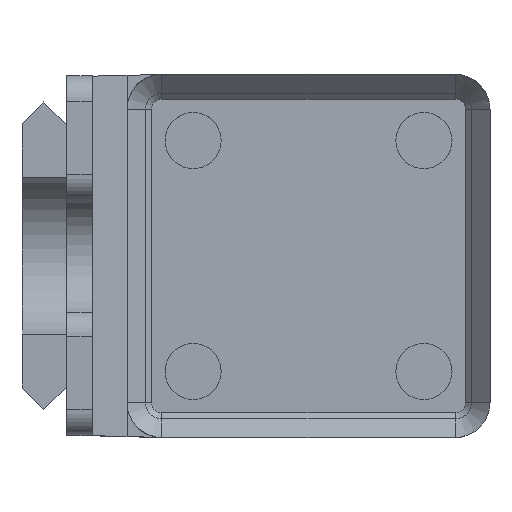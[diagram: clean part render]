
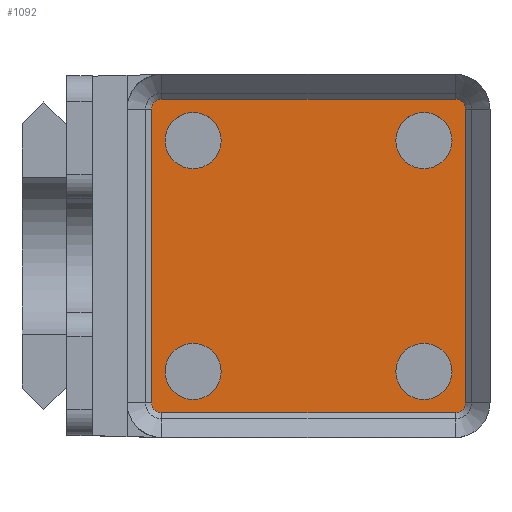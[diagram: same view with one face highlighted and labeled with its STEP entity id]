
A CAD part, top view. The second image highlights one B-rep face of the part: STEP entity #1092.
In plain terms, the highlighted planar face has unit normal (0, 0, 1).
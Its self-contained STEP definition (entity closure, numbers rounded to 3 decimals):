
#23=FACE_BOUND('',#151,.T.);
#24=FACE_BOUND('',#152,.T.);
#25=FACE_BOUND('',#153,.T.);
#26=FACE_BOUND('',#154,.T.);
#32=PLANE('',#1184);
#80=FACE_OUTER_BOUND('',#150,.T.);
#150=EDGE_LOOP('',(#768,#769,#770,#771,#772,#773,#774,#775));
#151=EDGE_LOOP('',(#776));
#152=EDGE_LOOP('',(#777));
#153=EDGE_LOOP('',(#778));
#154=EDGE_LOOP('',(#779));
#221=LINE('',#1657,#338);
#222=LINE('',#1661,#339);
#223=LINE('',#1665,#340);
#224=LINE('',#1668,#341);
#338=VECTOR('',#1322,10.);
#339=VECTOR('',#1325,10.);
#340=VECTOR('',#1328,10.);
#341=VECTOR('',#1331,10.);
#452=CIRCLE('',#1170,3.25);
#454=CIRCLE('',#1174,3.25);
#456=CIRCLE('',#1178,3.25);
#458=CIRCLE('',#1182,3.25);
#459=CIRCLE('',#1185,1.154);
#460=CIRCLE('',#1186,1.154);
#461=CIRCLE('',#1187,1.154);
#462=CIRCLE('',#1188,1.154);
#494=VERTEX_POINT('',#1627);
#496=VERTEX_POINT('',#1634);
#498=VERTEX_POINT('',#1641);
#500=VERTEX_POINT('',#1648);
#501=VERTEX_POINT('',#1653);
#502=VERTEX_POINT('',#1654);
#503=VERTEX_POINT('',#1656);
#504=VERTEX_POINT('',#1658);
#505=VERTEX_POINT('',#1660);
#506=VERTEX_POINT('',#1662);
#507=VERTEX_POINT('',#1664);
#508=VERTEX_POINT('',#1666);
#591=EDGE_CURVE('',#494,#494,#452,.T.);
#594=EDGE_CURVE('',#496,#496,#454,.T.);
#597=EDGE_CURVE('',#498,#498,#456,.T.);
#600=EDGE_CURVE('',#500,#500,#458,.T.);
#601=EDGE_CURVE('',#501,#502,#459,.F.);
#602=EDGE_CURVE('',#502,#503,#221,.F.);
#603=EDGE_CURVE('',#503,#504,#460,.F.);
#604=EDGE_CURVE('',#504,#505,#222,.F.);
#605=EDGE_CURVE('',#505,#506,#461,.F.);
#606=EDGE_CURVE('',#506,#507,#223,.F.);
#607=EDGE_CURVE('',#507,#508,#462,.F.);
#608=EDGE_CURVE('',#508,#501,#224,.F.);
#768=ORIENTED_EDGE('',*,*,#601,.T.);
#769=ORIENTED_EDGE('',*,*,#602,.T.);
#770=ORIENTED_EDGE('',*,*,#603,.T.);
#771=ORIENTED_EDGE('',*,*,#604,.T.);
#772=ORIENTED_EDGE('',*,*,#605,.T.);
#773=ORIENTED_EDGE('',*,*,#606,.T.);
#774=ORIENTED_EDGE('',*,*,#607,.T.);
#775=ORIENTED_EDGE('',*,*,#608,.T.);
#776=ORIENTED_EDGE('',*,*,#591,.T.);
#777=ORIENTED_EDGE('',*,*,#594,.T.);
#778=ORIENTED_EDGE('',*,*,#597,.T.);
#779=ORIENTED_EDGE('',*,*,#600,.T.);
#1092=ADVANCED_FACE('',(#80,#23,#24,#25,#26),#32,.F.);
#1170=AXIS2_PLACEMENT_3D('',#1629,#1287,#1288);
#1174=AXIS2_PLACEMENT_3D('',#1636,#1296,#1297);
#1178=AXIS2_PLACEMENT_3D('',#1643,#1305,#1306);
#1182=AXIS2_PLACEMENT_3D('',#1650,#1314,#1315);
#1184=AXIS2_PLACEMENT_3D('',#1652,#1318,#1319);
#1185=AXIS2_PLACEMENT_3D('',#1655,#1320,#1321);
#1186=AXIS2_PLACEMENT_3D('',#1659,#1323,#1324);
#1187=AXIS2_PLACEMENT_3D('',#1663,#1326,#1327);
#1188=AXIS2_PLACEMENT_3D('',#1667,#1329,#1330);
#1287=DIRECTION('center_axis',(0.,0.,-1.));
#1288=DIRECTION('ref_axis',(-1.,0.,0.));
#1296=DIRECTION('center_axis',(0.,0.,-1.));
#1297=DIRECTION('ref_axis',(-1.,0.,0.));
#1305=DIRECTION('center_axis',(0.,0.,-1.));
#1306=DIRECTION('ref_axis',(-1.,0.,0.));
#1314=DIRECTION('center_axis',(0.,0.,-1.));
#1315=DIRECTION('ref_axis',(-1.,0.,0.));
#1318=DIRECTION('center_axis',(0.,0.,-1.));
#1319=DIRECTION('ref_axis',(1.,0.,0.));
#1320=DIRECTION('center_axis',(0.,0.,
-1.));
#1321=DIRECTION('ref_axis',(0.,-1.,0.));
#1322=DIRECTION('',(-1.,0.,0.));
#1323=DIRECTION('center_axis',(0.,0.,
-1.));
#1324=DIRECTION('ref_axis',(1.,0.,0.));
#1325=DIRECTION('',(0.,-1.,0.));
#1326=DIRECTION('center_axis',(0.,0.,
-1.));
#1327=DIRECTION('ref_axis',(0.,1.,0.));
#1328=DIRECTION('',(1.,0.,0.));
#1329=DIRECTION('center_axis',(0.,0.,
-1.));
#1330=DIRECTION('ref_axis',(-1.,0.,0.));
#1331=DIRECTION('',(0.,1.,0.));
#1627=CARTESIAN_POINT('',(140.754,-13.354,-202.124));
#1629=CARTESIAN_POINT('Origin',(137.504,-13.354,-202.124));
#1634=CARTESIAN_POINT('',(140.754,13.354,-202.124));
#1636=CARTESIAN_POINT('Origin',(137.504,13.354,-202.124));
#1641=CARTESIAN_POINT('',(114.046,13.354,-202.124));
#1643=CARTESIAN_POINT('Origin',(110.796,13.354,-202.124));
#1648=CARTESIAN_POINT('',(114.046,-13.354,-202.124));
#1650=CARTESIAN_POINT('Origin',(110.796,-13.354,-202.124));
#1652=CARTESIAN_POINT('Origin',(120.65,0.,-202.124));
#1653=CARTESIAN_POINT('',(105.996,-17.,-202.124));
#1654=CARTESIAN_POINT('',(107.15,-18.154,-202.124));
#1655=CARTESIAN_POINT('Origin',(107.15,-17.,-202.124));
#1656=CARTESIAN_POINT('',(141.15,-18.154,-202.124));
#1657=CARTESIAN_POINT('',(132.65,-18.154,-202.124));
#1658=CARTESIAN_POINT('',(142.304,-17.,-202.124));
#1659=CARTESIAN_POINT('Origin',(141.15,-17.,-202.124));
#1660=CARTESIAN_POINT('',(142.304,17.,-202.124));
#1661=CARTESIAN_POINT('',(142.304,8.5,-202.124));
#1662=CARTESIAN_POINT('',(141.15,18.154,-202.124));
#1663=CARTESIAN_POINT('Origin',(141.15,17.,-202.124));
#1664=CARTESIAN_POINT('',(107.15,18.154,-202.124));
#1665=CARTESIAN_POINT('',(115.65,18.154,-202.124));
#1666=CARTESIAN_POINT('',(105.996,17.,-202.124));
#1667=CARTESIAN_POINT('Origin',(107.15,17.,-202.124));
#1668=CARTESIAN_POINT('',(105.996,0.,-202.124));
